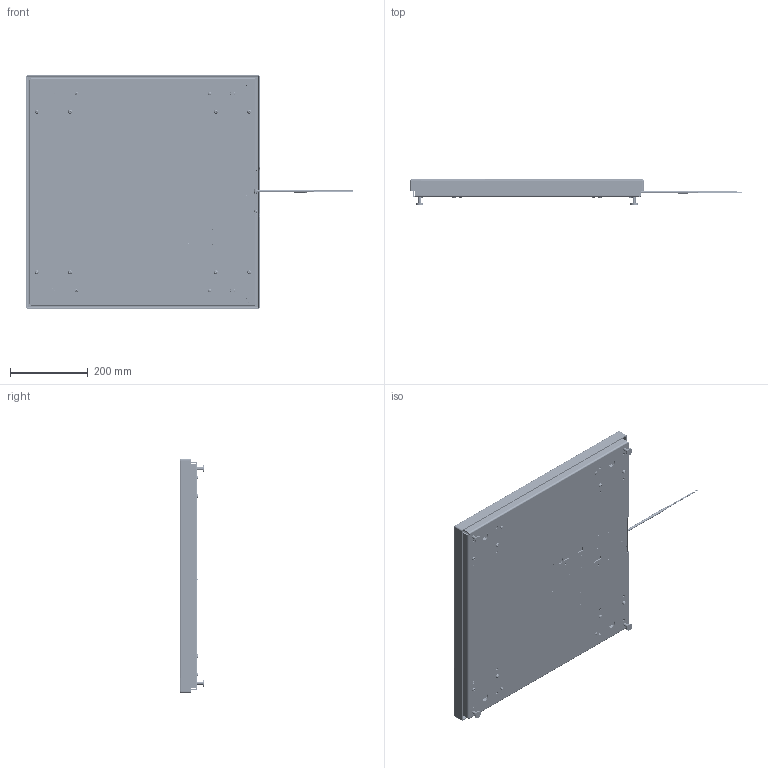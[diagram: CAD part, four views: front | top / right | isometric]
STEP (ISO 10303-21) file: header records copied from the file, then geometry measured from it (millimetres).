
FILE_DESCRIPTION (( 'STEP AP214' ), '1' );
FILE_NAME ('HI2424SBU-130.STEP', '2019-08-13T22:31:24', ( '' ), ( '' ), 'SwSTEP 2.0', 'SolidWorks 2017', '' );
FILE_SCHEMA (( 'AUTOMOTIVE_DESIGN' ));
Length unit declared in the file: millimetre
Products named in the file (41): flat head screw_ai_CR-FHMS 0.164-32x0.875x0.875-N-A2.70; 2817-0272-0_90402A146; 0074883_91290A248; 0514-0239-01-0; 0066958; socket button head cap screw_am_B18.3.4M - 6 x 1.0 x 20 SBHCS --N-A2.70; 0075293; 0074881_PBSH-15kg SUB-ASSEMBLY; 0074904; 0044535; pan cross head_ai_CR-PHMS 0.164-32x0.3125x0.3125-N-A2.70; LOAD CELL CABLE; 0075200_93505A451; 0530-0629-XX; 0075198; 0074871; 0075175_84-227974; 0074915_Modified By Hardy_Default<As Machined>; 0075173_B4; hex jam nut_ai_HJNUT 0.2500-20-D-N; 0074918; 0075295; 0075305_42-000848; 0530-0628-01; 0078239; 2814-0098-0_90633A007; 0018546; 0075174_3 & 4; HI2424SBU-130; socket head cap screw_am_B18.3.1M - 4 x 0.7 x 8 Hex SHCS -- 8NHX-A2.70; 0074757_Modified By Hardy; 0075231_PBSH-60kg 600 X 600; 0075233; 0075294; 0075232_80-001903; 0075172_A3, A4 & A5; 2808-0013-0; 0075290; 0075309; 0075287_C2 CHIP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
Assembly tree (82 placements, depth 4):
  HI2424SBU-130
    0074904
      0074915_Modified By Hardy_Default<As Machined>
      0074918  x4
      0078239
    0075309
    0075175_84-227974  x4
      0075172_A3, A4 & A5
      0075174_3 & 4
      0075173_B4
    hex jam nut_ai_HJNUT 0.2500-20-D-N  x4
    0074757_Modified By Hardy
    0075198  x4
    0075200_93505A451  x4
    0075290
      0075233
      0018546  x4
      0075287_C2 CHIP
      0075295  x4
        0075294
        0075293
    pan cross head_ai_CR-PHMS 0.164-32x0.3125x0.3125-N-A2.70  x4
    0074881_PBSH-15kg SUB-ASSEMBLY  x4
      0074871
      0044535
      0066958
      0074883_91290A248
    0075231_PBSH-60kg 600 X 600  x4
      0075230_91780A198
      0075232_80-001903
      flat head screw_ai_CR-FHMS 0.164-32x0.875x0.875-N-A2.70
      pan cross head_ai_CR-PHMS 0.164-32x0.3125x0.3125-N-A2.70
    socket button head cap screw_am_B18.3.4M - 6 x 1.0 x 20 SBHCS --N-A2.70  x8
    2814-0098-0_90633A007  x2
    0514-0239-01-0
    2817-0272-0_90402A146
    2808-0013-0
    LOAD CELL CABLE
    socket head cap screw_am_B18.3.1M - 4 x 0.7 x 8 Hex SHCS -- 8NHX-A2.70
    0075305_42-000848
    0530-0628-01
    0530-0629-XX
Bounding box: 852.36 x 64.1 x 600 mm (x, y, z)
Volume: 2776385.1 mm3; surface area: 1863884.3 mm2
Topology: 208 solids, 208 shells, 9420 faces, 24090 edges, 15503 vertices
Faces by surface type: plane 6186, cylinder 1622, cone 816, bspline 650, torus 108, sphere 38
Entity records: 267863 total; most frequent: CARTESIAN_POINT 59132, ORIENTED_EDGE 33642, DIRECTION 28719, EDGE_CURVE 16821, VECTOR 13493, LINE 13493, VERTEX_POINT 11024, AXIS2_PLACEMENT_3D 7613
